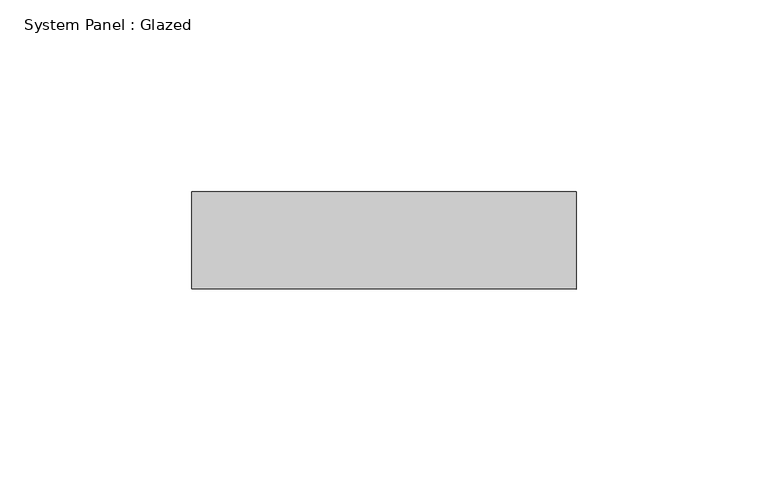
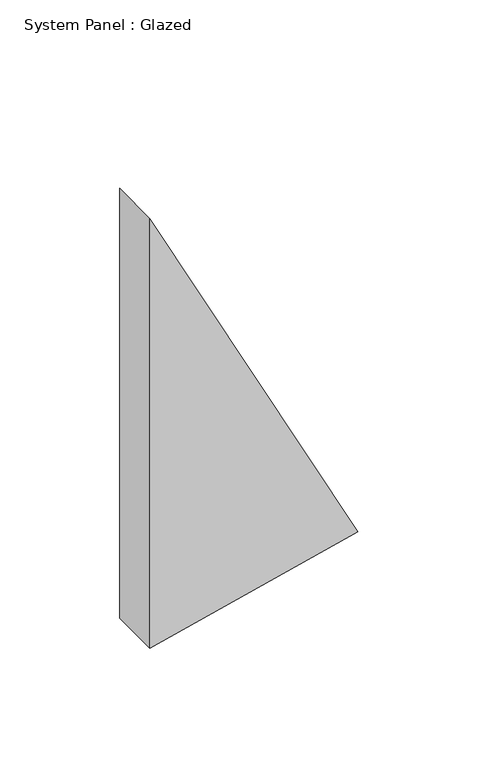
"""IFC4 building model written with IfcOpenShell, lengths in millimetres: plate geometry, System Panel : Glazed."""

from ifc_helpers import new_model, si_unit, frame, origin, place, context, project, spatial, polyline, outline, extrude, source, transform, mapped, element, save


def system_panel_glazed_1edf1cd4(model_context):
    return source(origin(), model_context, "Body", "SweptSolid", [
        extrude(outline(polyline([(0.0, -50.2221274), (24.3460609, 50.2226376), (219.3780759, -50.2226376), (0.0, -50.2221274)])), frame((0.0, 19.05, 0.0), z_axis=(0.0, 1.0, 0.0), x_axis=(0.0, 0.0, 1.0)), (0.0, 0.0, 1.0), 25.4),
    ])


if __name__ == "__main__":
    model = new_model("IFC4")
    model_context = context("Model", 3, world=origin())
    ifc_project = project(units=[si_unit("LENGTHUNIT", "METRE", prefix="MILLI")], contexts=[model_context])
    site = spatial("IfcSite", under=ifc_project)
    building = spatial("IfcBuilding", under=site)
    placement = place(None, origin())
    system_panel_glazed_shape = system_panel_glazed_1edf1cd4(model_context)
    element("IfcPlate", 1, ObjectType="System Panel : Glazed", at=placement, inside=building, context=model_context, shape_type="MappedRepresentation", body=[
        mapped(system_panel_glazed_shape, transform((0.0, 0.0, 0.0), x_axis=(1.0, 0.0, 0.0), y_axis=(0.0, 1.0, 0.0), z_axis=(0.0, 0.0, 1.0))),
    ])
    save(model, "model.ifc")
